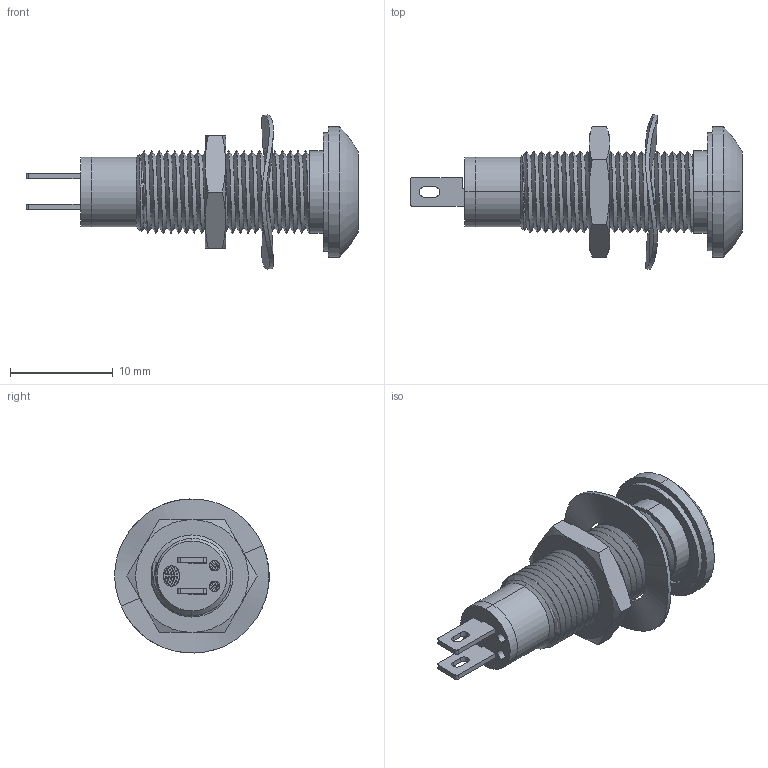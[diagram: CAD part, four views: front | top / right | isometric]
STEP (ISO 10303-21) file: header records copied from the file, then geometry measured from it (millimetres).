
FILE_DESCRIPTION (( 'STEP AP203' ), '1' );
FILE_NAME ('534 WITH TAGS.STEP', '2013-12-05T12:17:32', ( 'mark' ), ( '' ), 'SwSTEP 2.0', 'SolidWorks 2013', '' );
FILE_SCHEMA (( 'CONFIG_CONTROL_DESIGN' ));
Length unit declared in the file: millimetre
Products named in the file (1): 534 WITH TAGS
Bounding box: 32.35 x 15.03 x 15.01 mm (x, y, z)
Surface area: 1926.7 mm2 (no closed solid volume)
Topology: 0 solids, 14 shells, 261 faces, 657 edges, 424 vertices
Faces by surface type: cylinder 117, torus 74, plane 52, bspline 10, cone 8
Entity records: 11439 total; most frequent: CARTESIAN_POINT 5231, DIRECTION 1352, ORIENTED_EDGE 1223, EDGE_CURVE 657, AXIS2_PLACEMENT_3D 572, VERTEX_POINT 424, CIRCLE 320, EDGE_LOOP 296
